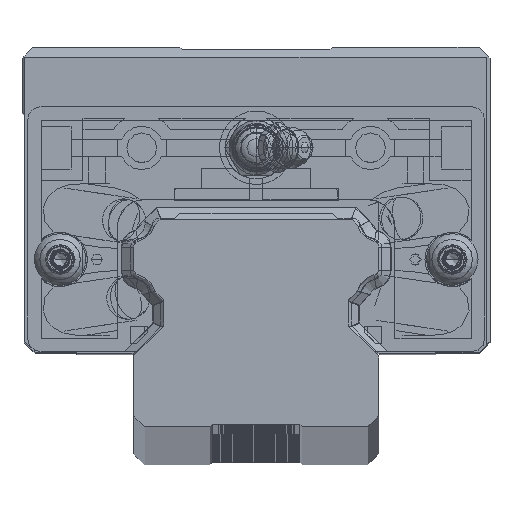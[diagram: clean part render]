
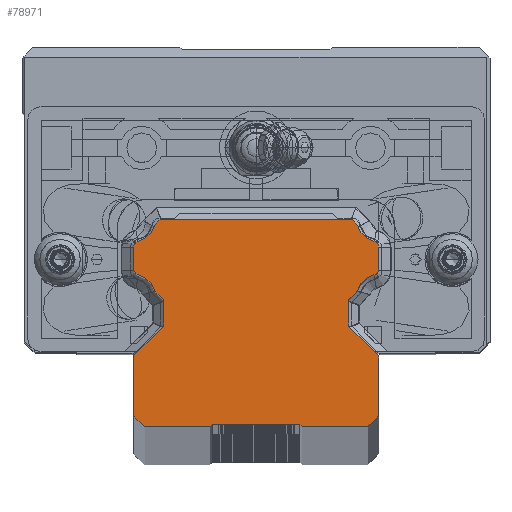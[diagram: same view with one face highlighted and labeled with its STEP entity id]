
A CAD part, top view. The second image highlights one B-rep face of the part: STEP entity #78971.
In plain terms, the highlighted planar face has unit normal (0, 0, 1).
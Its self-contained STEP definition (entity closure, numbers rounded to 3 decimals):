
#73727=DIRECTION('',(0.,-1.,0.));
#73728=VECTOR('',#73727,4.85);
#73729=CARTESIAN_POINT('',(-17.,-7.65,500.));
#73730=LINE('',#73729,#73728);
#73739=DIRECTION('',(0.,-1.,0.));
#73740=VECTOR('',#73739,11.);
#73741=CARTESIAN_POINT('',(-22.5,-18.,500.));
#73742=LINE('',#73741,#73740);
#73751=DIRECTION('',(1.,0.,0.));
#73752=VECTOR('',#73751,12.);
#73753=CARTESIAN_POINT('',(-20.5,-31.,500.));
#73754=LINE('',#73753,#73752);
#75127=DIRECTION('',(0.,-1.,0.));
#75128=VECTOR('',#75127,3.955);
#75129=CARTESIAN_POINT('',(-22.5,1.977,500.));
#75130=LINE('',#75129,#75128);
#75263=DIRECTION('',(-0.707,0.707,0.));
#75264=VECTOR('',#75263,2.29);
#75265=CARTESIAN_POINT('',(-17.,-7.65,500.));
#75266=LINE('',#75265,#75264);
#75267=CARTESIAN_POINT('',(-22.664,-7.164,500.));
#75268=DIRECTION('',(0.,0.,1.));
#75269=DIRECTION('',(0.963,0.27,0.));
#75270=AXIS2_PLACEMENT_3D('',#75267,#75268,#75269);
#75272=CARTESIAN_POINT('',(-21.35,-1.977,500.));
#75273=DIRECTION('',(0.,0.,-1.));
#75274=DIRECTION('',(-0.246,-0.969,0.));
#75275=AXIS2_PLACEMENT_3D('',#75272,#75273,#75274);
#75277=CARTESIAN_POINT('',(-21.35,1.977,500.));
#75278=DIRECTION('',(0.,0.,-1.));
#75279=DIRECTION('',(-1.,0.,0.));
#75280=AXIS2_PLACEMENT_3D('',#75277,#75278,#75279);
#75282=CARTESIAN_POINT('',(-22.664,7.164,500.));
#75283=DIRECTION('',(0.,0.,1.));
#75284=DIRECTION('',(0.246,-0.969,0.));
#75285=AXIS2_PLACEMENT_3D('',#75282,#75283,#75284);
#75287=DIRECTION('',(0.707,0.707,0.));
#75288=VECTOR('',#75287,1.371);
#75289=CARTESIAN_POINT('',(-18.619,6.031,500.));
#75290=LINE('',#75289,#75288);
#75291=DIRECTION('',(1.,0.,0.));
#75292=VECTOR('',#75291,35.3);
#75293=CARTESIAN_POINT('',(-17.65,7.,500.));
#75294=LINE('',#75293,#75292);
#75295=DIRECTION('',(0.707,-0.707,0.));
#75296=VECTOR('',#75295,1.371);
#75297=CARTESIAN_POINT('',(17.65,7.,500.));
#75298=LINE('',#75297,#75296);
#75299=CARTESIAN_POINT('',(22.664,7.164,500.));
#75300=DIRECTION('',(0.,0.,1.));
#75301=DIRECTION('',(-0.963,-0.27,0.));
#75302=AXIS2_PLACEMENT_3D('',#75299,#75300,#75301);
#75304=CARTESIAN_POINT('',(21.35,1.977,500.));
#75305=DIRECTION('',(0.,0.,-1.));
#75306=DIRECTION('',(0.246,0.969,0.));
#75307=AXIS2_PLACEMENT_3D('',#75304,#75305,#75306);
#75309=CARTESIAN_POINT('',(21.35,-1.977,500.));
#75310=DIRECTION('',(0.,0.,-1.));
#75311=DIRECTION('',(1.,0.,0.));
#75312=AXIS2_PLACEMENT_3D('',#75309,#75310,#75311);
#75314=CARTESIAN_POINT('',(22.664,-7.164,500.));
#75315=DIRECTION('',(0.,0.,1.));
#75316=DIRECTION('',(-0.246,0.969,0.));
#75317=AXIS2_PLACEMENT_3D('',#75314,#75315,#75316);
#75319=DIRECTION('',(-0.707,-0.707,0.));
#75320=VECTOR('',#75319,2.29);
#75321=CARTESIAN_POINT('',(18.619,-6.031,500.));
#75322=LINE('',#75321,#75320);
#75323=DIRECTION('',(0.707,-0.707,0.));
#75324=VECTOR('',#75323,7.778);
#75325=CARTESIAN_POINT('',(17.,-12.5,500.));
#75326=LINE('',#75325,#75324);
#75327=DIRECTION('',(-0.707,-0.707,0.));
#75328=VECTOR('',#75327,2.828);
#75329=CARTESIAN_POINT('',(22.5,-29.,500.));
#75330=LINE('',#75329,#75328);
#75331=DIRECTION('',(-0.707,0.707,0.));
#75332=VECTOR('',#75331,0.707);
#75333=CARTESIAN_POINT('',(8.5,-31.,500.));
#75334=LINE('',#75333,#75332);
#75335=DIRECTION('',(-1.,0.,0.));
#75336=VECTOR('',#75335,16.);
#75337=CARTESIAN_POINT('',(8.,-30.5,500.));
#75338=LINE('',#75337,#75336);
#75339=DIRECTION('',(-0.707,-0.707,0.));
#75340=VECTOR('',#75339,0.707);
#75341=CARTESIAN_POINT('',(-8.,-30.5,500.));
#75342=LINE('',#75341,#75340);
#75343=DIRECTION('',(-0.707,0.707,0.));
#75344=VECTOR('',#75343,2.828);
#75345=CARTESIAN_POINT('',(-20.5,-31.,500.));
#75346=LINE('',#75345,#75344);
#75347=DIRECTION('',(0.707,0.707,0.));
#75348=VECTOR('',#75347,7.778);
#75349=CARTESIAN_POINT('',(-22.5,-18.,500.));
#75350=LINE('',#75349,#75348);
#75367=DIRECTION('',(0.,1.,0.));
#75368=VECTOR('',#75367,3.955);
#75369=CARTESIAN_POINT('',(22.5,-1.977,500.));
#75370=LINE('',#75369,#75368);
#75387=DIRECTION('',(0.,1.,0.));
#75388=VECTOR('',#75387,4.85);
#75389=CARTESIAN_POINT('',(17.,-12.5,500.));
#75390=LINE('',#75389,#75388);
#75399=DIRECTION('',(0.,1.,0.));
#75400=VECTOR('',#75399,11.);
#75401=CARTESIAN_POINT('',(22.5,-29.,500.));
#75402=LINE('',#75401,#75400);
#75411=DIRECTION('',(1.,0.,0.));
#75412=VECTOR('',#75411,12.);
#75413=CARTESIAN_POINT('',(8.5,-31.,500.));
#75414=LINE('',#75413,#75412);
#76423=CARTESIAN_POINT('',(-17.,-7.65,500.));
#76424=CARTESIAN_POINT('',(-18.619,-6.031,500.));
#76425=VERTEX_POINT('',#76423);
#76426=VERTEX_POINT('',#76424);
#76427=CARTESIAN_POINT('',(-21.632,-3.092,500.));
#76428=VERTEX_POINT('',#76427);
#76429=CARTESIAN_POINT('',(-22.5,-1.977,500.));
#76430=VERTEX_POINT('',#76429);
#76431=CARTESIAN_POINT('',(-22.5,1.977,500.));
#76432=VERTEX_POINT('',#76431);
#76433=CARTESIAN_POINT('',(-21.632,3.092,500.));
#76434=VERTEX_POINT('',#76433);
#76435=CARTESIAN_POINT('',(-18.619,6.031,500.));
#76436=VERTEX_POINT('',#76435);
#76437=CARTESIAN_POINT('',(-17.65,7.,500.));
#76438=VERTEX_POINT('',#76437);
#76439=CARTESIAN_POINT('',(17.65,7.,500.));
#76440=VERTEX_POINT('',#76439);
#76481=CARTESIAN_POINT('',(18.619,6.031,500.));
#76482=VERTEX_POINT('',#76481);
#76483=CARTESIAN_POINT('',(21.632,3.092,500.));
#76484=VERTEX_POINT('',#76483);
#76485=CARTESIAN_POINT('',(22.5,1.977,500.));
#76486=VERTEX_POINT('',#76485);
#76487=CARTESIAN_POINT('',(22.5,-1.977,500.));
#76488=VERTEX_POINT('',#76487);
#76489=CARTESIAN_POINT('',(21.632,-3.092,500.));
#76490=VERTEX_POINT('',#76489);
#76491=CARTESIAN_POINT('',(18.619,-6.031,500.));
#76492=VERTEX_POINT('',#76491);
#76493=CARTESIAN_POINT('',(17.,-7.65,500.));
#76494=VERTEX_POINT('',#76493);
#76495=CARTESIAN_POINT('',(17.,-12.5,500.));
#76496=VERTEX_POINT('',#76495);
#76497=CARTESIAN_POINT('',(22.5,-18.,500.));
#76498=VERTEX_POINT('',#76497);
#76499=CARTESIAN_POINT('',(22.5,-29.,500.));
#76500=VERTEX_POINT('',#76499);
#76501=CARTESIAN_POINT('',(20.5,-31.,500.));
#76502=VERTEX_POINT('',#76501);
#76503=CARTESIAN_POINT('',(8.5,-31.,500.));
#76504=VERTEX_POINT('',#76503);
#76505=CARTESIAN_POINT('',(8.,-30.5,500.));
#76506=VERTEX_POINT('',#76505);
#76507=CARTESIAN_POINT('',(-8.,-30.5,500.));
#76508=VERTEX_POINT('',#76507);
#76549=CARTESIAN_POINT('',(-8.5,-31.,500.));
#76550=VERTEX_POINT('',#76549);
#76551=CARTESIAN_POINT('',(-20.5,-31.,500.));
#76552=VERTEX_POINT('',#76551);
#76553=CARTESIAN_POINT('',(-22.5,-29.,500.));
#76554=VERTEX_POINT('',#76553);
#76555=CARTESIAN_POINT('',(-22.5,-18.,500.));
#76556=VERTEX_POINT('',#76555);
#76557=CARTESIAN_POINT('',(-17.,-12.5,500.));
#76558=VERTEX_POINT('',#76557);
#78924=CARTESIAN_POINT('',(0.,0.,500.));
#78925=DIRECTION('',(0.,0.,1.));
#78926=DIRECTION('',(1.,0.,0.));
#78927=AXIS2_PLACEMENT_3D('',#78924,#78925,#78926);
#78928=PLANE('',#78927);
#78929=ORIENTED_EDGE('',*,*,#77154,.T.);
#78930=ORIENTED_EDGE('',*,*,#78828,.T.);
#78931=ORIENTED_EDGE('',*,*,#78814,.T.);
#78932=ORIENTED_EDGE('',*,*,#78799,.F.);
#78933=ORIENTED_EDGE('',*,*,#78784,.T.);
#78934=ORIENTED_EDGE('',*,*,#78769,.T.);
#78935=ORIENTED_EDGE('',*,*,#78754,.T.);
#78936=ORIENTED_EDGE('',*,*,#77870,.T.);
#78938=ORIENTED_EDGE('',*,*,#78937,.T.);
#78940=ORIENTED_EDGE('',*,*,#78939,.T.);
#78942=ORIENTED_EDGE('',*,*,#78941,.T.);
#78944=ORIENTED_EDGE('',*,*,#78943,.F.);
#78946=ORIENTED_EDGE('',*,*,#78945,.T.);
#78948=ORIENTED_EDGE('',*,*,#78947,.T.);
#78950=ORIENTED_EDGE('',*,*,#78949,.T.);
#78952=ORIENTED_EDGE('',*,*,#78951,.F.);
#78954=ORIENTED_EDGE('',*,*,#78953,.T.);
#78956=ORIENTED_EDGE('',*,*,#78955,.F.);
#78958=ORIENTED_EDGE('',*,*,#78957,.T.);
#78960=ORIENTED_EDGE('',*,*,#78959,.F.);
#78961=ORIENTED_EDGE('',*,*,#78915,.T.);
#78962=ORIENTED_EDGE('',*,*,#77313,.T.);
#78963=ORIENTED_EDGE('',*,*,#77246,.T.);
#78964=ORIENTED_EDGE('',*,*,#77229,.F.);
#78965=ORIENTED_EDGE('',*,*,#77214,.T.);
#78966=ORIENTED_EDGE('',*,*,#77199,.F.);
#78967=ORIENTED_EDGE('',*,*,#77184,.T.);
#78968=ORIENTED_EDGE('',*,*,#77169,.F.);
#78969=EDGE_LOOP('',(#78929,#78930,#78931,#78932,#78933,#78934,#78935,#78936,
#78938,#78940,#78942,#78944,#78946,#78948,#78950,#78952,#78954,#78956,#78958,
#78960,#78961,#78962,#78963,#78964,#78965,#78966,#78967,#78968));
#78970=FACE_OUTER_BOUND('',#78969,.F.);
#78971=ADVANCED_FACE('',(#78970),#78928,.T.);
#75271=CIRCLE('',#75270,4.2);
#75276=CIRCLE('',#75275,1.15);
#75281=CIRCLE('',#75280,1.15);
#75286=CIRCLE('',#75285,4.2);
#75303=CIRCLE('',#75302,4.2);
#75308=CIRCLE('',#75307,1.15);
#75313=CIRCLE('',#75312,1.15);
#75318=CIRCLE('',#75317,4.2);
#77154=EDGE_CURVE('',#76425,#76426,#75266,.T.);
#77169=EDGE_CURVE('',#76425,#76558,#73730,.T.);
#77184=EDGE_CURVE('',#76556,#76558,#75350,.T.);
#77199=EDGE_CURVE('',#76556,#76554,#73742,.T.);
#77214=EDGE_CURVE('',#76552,#76554,#75346,.T.);
#77229=EDGE_CURVE('',#76552,#76550,#73754,.T.);
#77246=EDGE_CURVE('',#76508,#76550,#75342,.T.);
#77313=EDGE_CURVE('',#76506,#76508,#75338,.T.);
#77870=EDGE_CURVE('',#76438,#76440,#75294,.T.);
#78754=EDGE_CURVE('',#76436,#76438,#75290,.T.);
#78769=EDGE_CURVE('',#76434,#76436,#75286,.T.);
#78784=EDGE_CURVE('',#76432,#76434,#75281,.T.);
#78799=EDGE_CURVE('',#76432,#76430,#75130,.T.);
#78814=EDGE_CURVE('',#76428,#76430,#75276,.T.);
#78828=EDGE_CURVE('',#76426,#76428,#75271,.T.);
#78915=EDGE_CURVE('',#76504,#76506,#75334,.T.);
#78937=EDGE_CURVE('',#76440,#76482,#75298,.T.);
#78939=EDGE_CURVE('',#76482,#76484,#75303,.T.);
#78941=EDGE_CURVE('',#76484,#76486,#75308,.T.);
#78943=EDGE_CURVE('',#76488,#76486,#75370,.T.);
#78945=EDGE_CURVE('',#76488,#76490,#75313,.T.);
#78947=EDGE_CURVE('',#76490,#76492,#75318,.T.);
#78949=EDGE_CURVE('',#76492,#76494,#75322,.T.);
#78951=EDGE_CURVE('',#76496,#76494,#75390,.T.);
#78953=EDGE_CURVE('',#76496,#76498,#75326,.T.);
#78955=EDGE_CURVE('',#76500,#76498,#75402,.T.);
#78957=EDGE_CURVE('',#76500,#76502,#75330,.T.);
#78959=EDGE_CURVE('',#76504,#76502,#75414,.T.);
